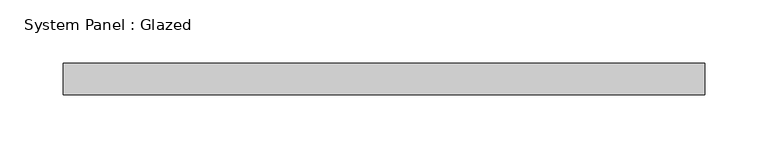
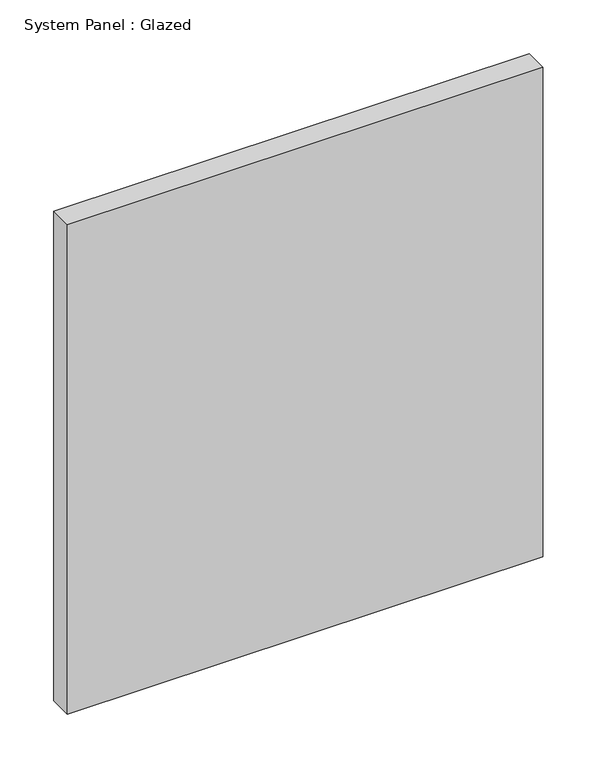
"""IFC4 building model written with IfcOpenShell, lengths in millimetres: plate geometry, System Panel : Glazed."""

from ifc_helpers import new_model, si_unit, origin, origin_with_axes, place, context, project, spatial, polyline, outline, extrude, source, transform, mapped, element, save


def system_panel_glazed_4ccf8f99(model_context):
    return source(origin(), model_context, "Body", "SweptSolid", [
        extrude(outline(polyline([(254.2200031, -12.5), (-254.2200031, -12.5), (-254.2200031, 12.5), (254.2200031, 12.5), (254.2200031, -12.5)])), origin_with_axes(), (0.0, 0.0, 1.0), 553.2555545),
    ])


if __name__ == "__main__":
    model = new_model("IFC4")
    model_context = context("Model", 3, world=origin())
    ifc_project = project(units=[si_unit("LENGTHUNIT", "METRE", prefix="MILLI")], contexts=[model_context])
    site = spatial("IfcSite", under=ifc_project)
    building = spatial("IfcBuilding", under=site)
    placement = place(None, origin())
    system_panel_glazed_shape = system_panel_glazed_4ccf8f99(model_context)
    element("IfcPlate", 1, ObjectType="System Panel : Glazed", at=placement, inside=building, context=model_context, shape_type="MappedRepresentation", body=[
        mapped(system_panel_glazed_shape, transform((0.0, 0.0, 0.0), x_axis=(1.0, 0.0, 0.0), y_axis=(0.0, 1.0, 0.0), z_axis=(0.0, 0.0, 1.0))),
    ])
    save(model, "model.ifc")
